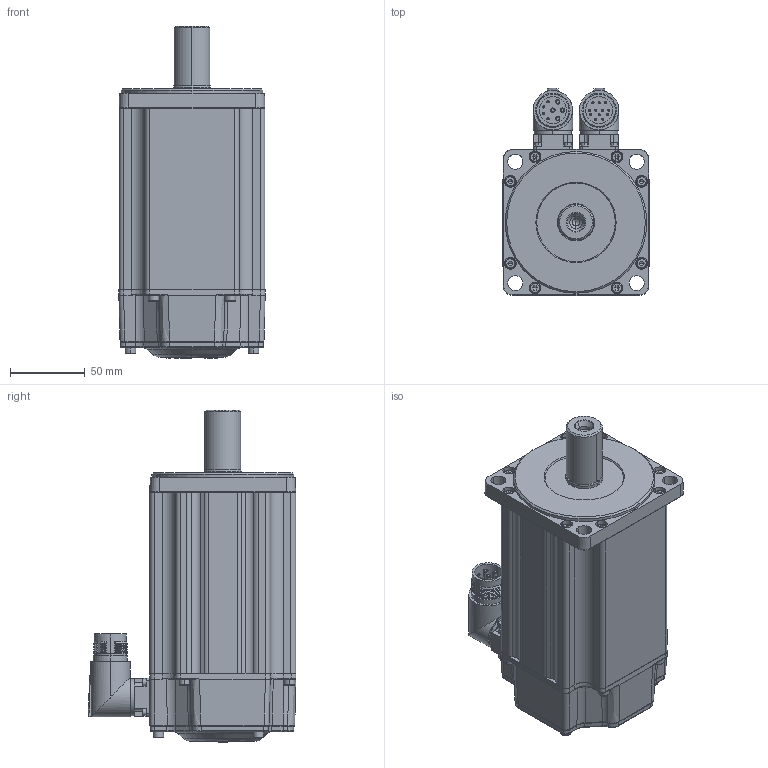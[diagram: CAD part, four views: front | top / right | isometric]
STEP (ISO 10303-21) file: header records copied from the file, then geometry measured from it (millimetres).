
FILE_DESCRIPTION (( 'STEP AP203' ), '1' );
FILE_NAME ('MC20-100-3L30-N202-0¡õPL-NNNN.STEP', '2025-07-29T14:47:41', ( '' ), ( '' ), 'SwSTEP 2.0', 'SolidWorks 2014', '' );
FILE_SCHEMA (( 'CONFIG_CONTROL_DESIGN' ));
Length unit declared in the file: millimetre
Products named in the file (1): MC20-100-3L30-N202-0¡õPL-NNNN
Bounding box: 98.04 x 139.27 x 222.49 mm (x, y, z)
Volume: 1650445.5 mm3; surface area: 199610.4 mm2
Topology: 31 solids, 31 shells, 2062 faces, 4785 edges, 2837 vertices
Faces by surface type: plane 759, cylinder 542, cone 363, bspline 211, torus 182, sphere 5
Entity records: 64362 total; most frequent: CARTESIAN_POINT 18685, DIRECTION 9633, ORIENTED_EDGE 9382, EDGE_CURVE 4691, AXIS2_PLACEMENT_3D 3761, VERTEX_POINT 2837, EDGE_LOOP 2280, LINE 2111
